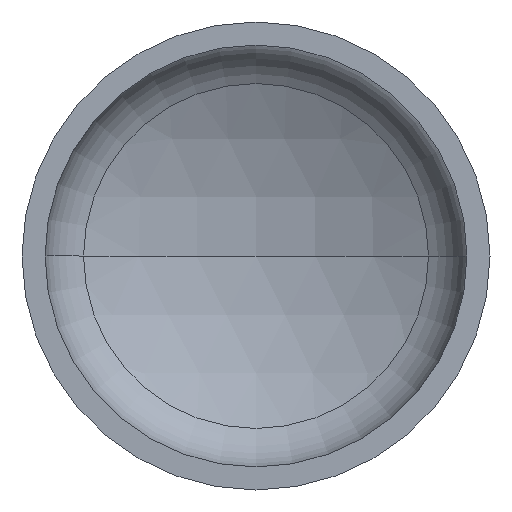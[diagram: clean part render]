
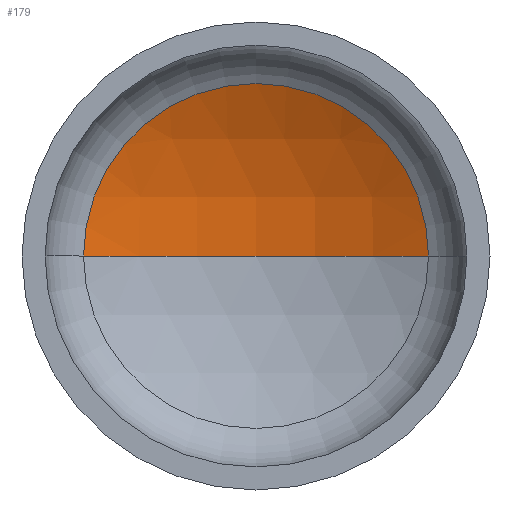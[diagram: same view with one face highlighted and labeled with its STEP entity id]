
A CAD part, front view. The second image highlights one B-rep face of the part: STEP entity #179.
In plain terms, the highlighted spherical face has radius 325 mm.
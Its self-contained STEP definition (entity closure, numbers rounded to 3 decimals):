
#3 = DIRECTION ( 'NONE',  ( -1., 0., 0. ) ) ;
#6 = DIRECTION ( 'NONE',  ( 0., 0., 1. ) ) ;
#12 = EDGE_LOOP ( 'NONE', ( #32, #136, #144 ) ) ;
#13 = CARTESIAN_POINT ( 'NONE',  ( 0., -173.409, 0. ) ) ;
#27 = AXIS2_PLACEMENT_3D ( 'NONE', #278, #254, #277 ) ;
#32 = ORIENTED_EDGE ( 'NONE', *, *, #122, .F. ) ;
#34 = CARTESIAN_POINT ( 'NONE',  ( 0., -173.409, 0. ) ) ;
#55 = AXIS2_PLACEMENT_3D ( 'NONE', #13, #6, #272 ) ;
#56 = AXIS2_PLACEMENT_3D ( 'NONE', #34, #281, #3 ) ;
#60 = AXIS2_PLACEMENT_3D ( 'NONE', #204, #189, #191 ) ;
#73 = VERTEX_POINT ( 'NONE', #251 ) ;
#90 = FACE_OUTER_BOUND ( 'NONE', #12, .T. ) ;
#113 = EDGE_CURVE ( 'NONE', #286, #118, #323, .T. ) ;
#116 = EDGE_CURVE ( 'NONE', #73, #286, #261, .T. ) ;
#118 = VERTEX_POINT ( 'NONE', #206 ) ;
#122 = EDGE_CURVE ( 'NONE', #73, #118, #385, .T. ) ;
#136 = ORIENTED_EDGE ( 'NONE', *, *, #116, .T. ) ;
#144 = ORIENTED_EDGE ( 'NONE', *, *, #113, .T. ) ;
#179 = ADVANCED_FACE ( 'NONE', ( #90 ), #371, .F. ) ;
#189 = DIRECTION ( 'NONE',  ( 0., -1., 0. ) ) ;
#191 = DIRECTION ( 'NONE',  ( 1., 0., 0. ) ) ;
#204 = CARTESIAN_POINT ( 'NONE',  ( 0., 115.024, 0. ) ) ;
#206 = CARTESIAN_POINT ( 'NONE',  ( -149.772, 115.024, 0. ) ) ;
#251 = CARTESIAN_POINT ( 'NONE',  ( 0., 151.591, 0. ) ) ;
#254 = DIRECTION ( 'NONE',  ( 0., 0., -1. ) ) ;
#261 = CIRCLE ( 'NONE', #56, 325. ) ;
#272 = DIRECTION ( 'NONE',  ( 1., 0., 0. ) ) ;
#277 = DIRECTION ( 'NONE',  ( -1., 0., 0. ) ) ;
#278 = CARTESIAN_POINT ( 'NONE',  ( 0., -173.409, 0. ) ) ;
#281 = DIRECTION ( 'NONE',  ( 0., 0., -1. ) ) ;
#286 = VERTEX_POINT ( 'NONE', #387 ) ;
#323 = CIRCLE ( 'NONE', #60, 149.772 ) ;
#371 = SPHERICAL_SURFACE ( 'NONE', #27, 325. ) ;
#385 = CIRCLE ( 'NONE', #55, 325. ) ;
#387 = CARTESIAN_POINT ( 'NONE',  ( 149.772, 115.024, 0. ) ) ;
